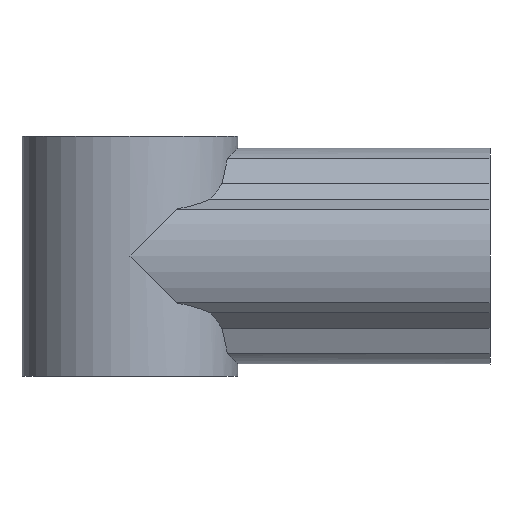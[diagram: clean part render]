
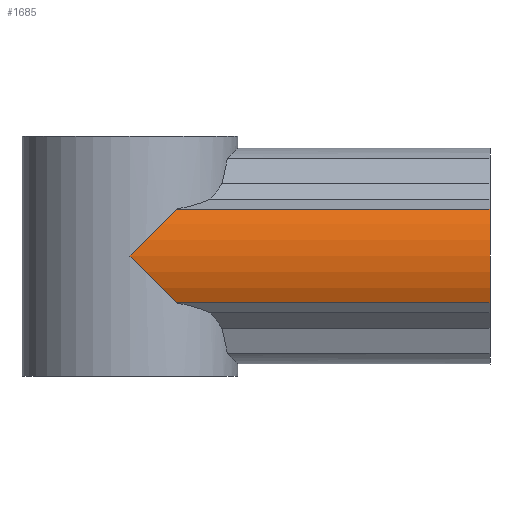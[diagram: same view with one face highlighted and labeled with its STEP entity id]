
A CAD part, left-side view. The second image highlights one B-rep face of the part: STEP entity #1685.
In plain terms, the highlighted cylindrical face has radius 3.6 mm (diameter 7.2 mm), a partial arc.
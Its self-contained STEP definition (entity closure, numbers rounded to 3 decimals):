
#99=ELLIPSE('',#1849,5.091,3.6);
#100=ELLIPSE('',#1850,5.091,3.6);
#191=LINE('',#2822,#329);
#193=LINE('',#2828,#331);
#329=VECTOR('',#2290,1000.);
#331=VECTOR('',#2296,1000.);
#688=ORIENTED_EDGE('',*,*,#1043,.T.);
#689=ORIENTED_EDGE('',*,*,#1045,.T.);
#690=ORIENTED_EDGE('',*,*,#1046,.F.);
#691=ORIENTED_EDGE('',*,*,#1024,.F.);
#692=ORIENTED_EDGE('',*,*,#1023,.F.);
#1023=EDGE_CURVE('',#1230,#1231,#99,.T.);
#1024=EDGE_CURVE('',#1231,#1219,#100,.F.);
#1043=EDGE_CURVE('',#1230,#1242,#191,.T.);
#1045=EDGE_CURVE('',#1242,#1243,#1341,.T.);
#1046=EDGE_CURVE('',#1219,#1243,#193,.T.);
#1219=VERTEX_POINT('',#2759);
#1230=VERTEX_POINT('',#2781);
#1231=VERTEX_POINT('',#2783);
#1242=VERTEX_POINT('',#2823);
#1243=VERTEX_POINT('',#2827);
#1341=CIRCLE('',#1865,3.6);
#1438=EDGE_LOOP('',(#688,#689,#690,#691,#692));
#1541=FACE_BOUND('',#1438,.T.);
#1610=CYLINDRICAL_SURFACE('',#1864,3.6);
#1685=ADVANCED_FACE('',(#1541),#1610,.T.);
#1849=AXIS2_PLACEMENT_3D('',#2782,#2246,#2247);
#1850=AXIS2_PLACEMENT_3D('',#2784,#2248,#2249);
#1864=AXIS2_PLACEMENT_3D('',#2825,#2292,#2293);
#1865=AXIS2_PLACEMENT_3D('',#2826,#2294,#2295);
#2246=DIRECTION('',(0.,0.707,-0.707));
#2247=DIRECTION('',(0.,-0.707,-0.707));
#2248=DIRECTION('',(0.,-0.707,-0.707));
#2249=DIRECTION('',(0.,0.707,-0.707));
#2290=DIRECTION('',(0.,-1.,0.));
#2292=DIRECTION('',(0.,-1.,0.));
#2293=DIRECTION('',(0.,0.,-1.));
#2294=DIRECTION('',(0.,1.,0.));
#2295=DIRECTION('',(1.,0.,0.));
#2296=DIRECTION('',(0.,-1.,0.));
#2759=CARTESIAN_POINT('',(-3.243,10.438,1.562));
#2781=CARTESIAN_POINT('',(-3.243,10.438,-1.562));
#2782=CARTESIAN_POINT('',(0.,12.,0.));
#2783=CARTESIAN_POINT('',(-3.6,12.,0.));
#2784=CARTESIAN_POINT('',(0.,12.,0.));
#2822=CARTESIAN_POINT('',(-3.243,8.,-1.562));
#2823=CARTESIAN_POINT('',(-3.243,0.,-1.562));
#2825=CARTESIAN_POINT('',(0.,8.,0.));
#2826=CARTESIAN_POINT('',(0.,0.,0.));
#2827=CARTESIAN_POINT('',(-3.243,0.,1.562));
#2828=CARTESIAN_POINT('',(-3.243,8.,1.562));
